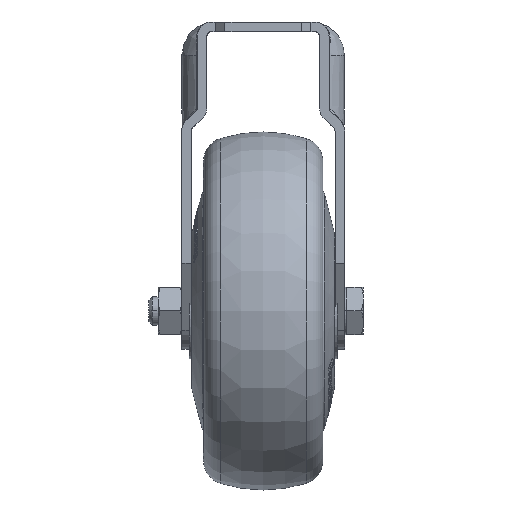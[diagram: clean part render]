
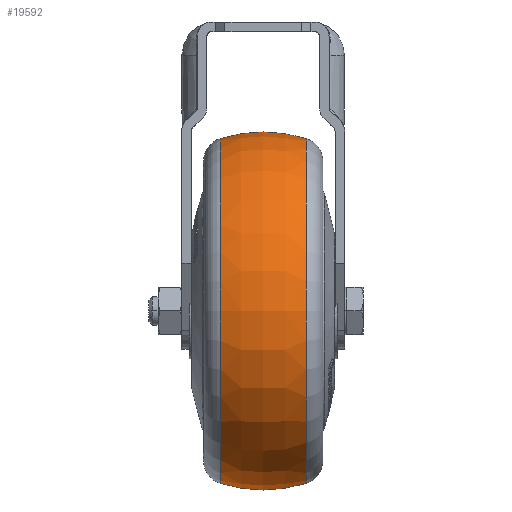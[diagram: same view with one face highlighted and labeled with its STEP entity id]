
A CAD part, top view. The second image highlights one B-rep face of the part: STEP entity #19592.
In plain terms, the highlighted toroidal (fillet/blend) face has major radius 7.5 mm and minor radius 30 mm.
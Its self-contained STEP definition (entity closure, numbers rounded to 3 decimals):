
#731 = VERTEX_POINT ( 'NONE', #10475 ) ;
#1495 = CARTESIAN_POINT ( 'NONE',  ( 9., -24.382, 0. ) ) ;
#2997 = DIRECTION ( 'NONE',  ( 0., -1., 0. ) ) ;
#3110 = EDGE_LOOP ( 'NONE', ( #16198, #5055, #28846, #21697 ) ) ;
#3913 = CARTESIAN_POINT ( 'NONE',  ( 9., -60.5, 0. ) ) ;
#4023 = CIRCLE ( 'NONE', #18080, 36.118 ) ;
#5055 = ORIENTED_EDGE ( 'NONE', *, *, #17765, .T. ) ;
#5139 = CIRCLE ( 'NONE', #14045, 30. ) ;
#6279 = CIRCLE ( 'NONE', #18129, 30. ) ;
#6730 = CARTESIAN_POINT ( 'NONE',  ( 0., -53., 0. ) ) ;
#7164 = DIRECTION ( 'NONE',  ( 0., -1., 0. ) ) ;
#9996 = DIRECTION ( 'NONE',  ( 0., -1., 0. ) ) ;
#10475 = CARTESIAN_POINT ( 'NONE',  ( -9., -96.618, 0. ) ) ;
#11965 = CARTESIAN_POINT ( 'NONE',  ( 9., -96.618, 0. ) ) ;
#13137 = DIRECTION ( 'NONE',  ( -1., 0., 0. ) ) ;
#14045 = AXIS2_PLACEMENT_3D ( 'NONE', #6730, #29524, #9996 ) ;
#14766 = AXIS2_PLACEMENT_3D ( 'NONE', #32652, #13137, #35873 ) ;
#15012 = CARTESIAN_POINT ( 'NONE',  ( 0., -68., 0. ) ) ;
#15560 = VERTEX_POINT ( 'NONE', #1495 ) ;
#16198 = ORIENTED_EDGE ( 'NONE', *, *, #42011, .T. ) ;
#16866 = TOROIDAL_SURFACE ( 'NONE', #20140, 7.5, 30. ) ;
#17765 = EDGE_CURVE ( 'NONE', #15560, #38134, #5139, .T. ) ;
#18080 = AXIS2_PLACEMENT_3D ( 'NONE', #3913, #26711, #7164 ) ;
#18129 = AXIS2_PLACEMENT_3D ( 'NONE', #15012, #37727, #18284 ) ;
#18284 = DIRECTION ( 'NONE',  ( 0., 1., 0. ) ) ;
#19592 = ADVANCED_FACE ( 'NONE', ( #33130 ), #16866, .T. ) ;
#20140 = AXIS2_PLACEMENT_3D ( 'NONE', #41905, #25661, #2997 ) ;
#21697 = ORIENTED_EDGE ( 'NONE', *, *, #30658, .F. ) ;
#25661 = DIRECTION ( 'NONE',  ( -1., 0., 0. ) ) ;
#26711 = DIRECTION ( 'NONE',  ( -1., 0., 0. ) ) ;
#28220 = VERTEX_POINT ( 'NONE', #11965 ) ;
#28846 = ORIENTED_EDGE ( 'NONE', *, *, #40081, .F. ) ;
#29524 = DIRECTION ( 'NONE',  ( 0., 0., 1. ) ) ;
#30658 = EDGE_CURVE ( 'NONE', #28220, #731, #6279, .T. ) ;
#32652 = CARTESIAN_POINT ( 'NONE',  ( -9., -60.5, 0. ) ) ;
#33130 = FACE_OUTER_BOUND ( 'NONE', #3110, .T. ) ;
#35873 = DIRECTION ( 'NONE',  ( 0., -1., 0. ) ) ;
#37727 = DIRECTION ( 'NONE',  ( 0., 0., -1. ) ) ;
#37934 = CIRCLE ( 'NONE', #14766, 36.118 ) ;
#38134 = VERTEX_POINT ( 'NONE', #39094 ) ;
#39094 = CARTESIAN_POINT ( 'NONE',  ( -9., -24.382, 0. ) ) ;
#40081 = EDGE_CURVE ( 'NONE', #731, #38134, #37934, .T. ) ;
#41905 = CARTESIAN_POINT ( 'NONE',  ( 0., -60.5, 0. ) ) ;
#42011 = EDGE_CURVE ( 'NONE', #28220, #15560, #4023, .T. ) ;
